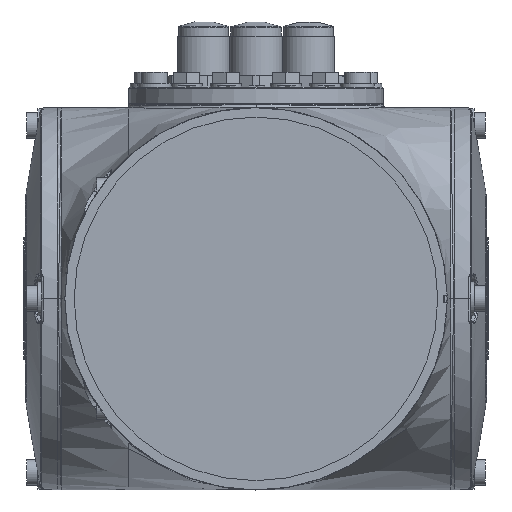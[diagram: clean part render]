
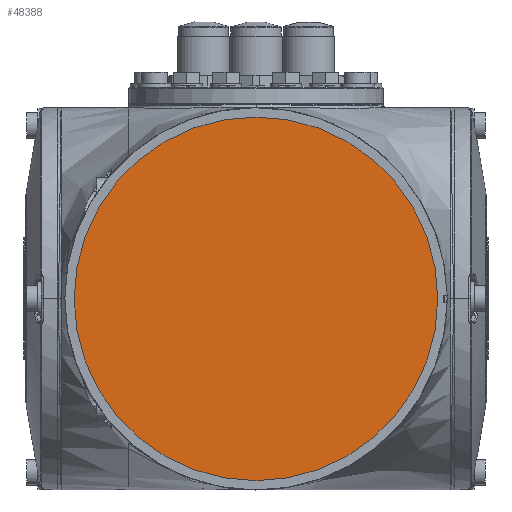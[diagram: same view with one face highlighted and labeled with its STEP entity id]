
A CAD part, left-side view. The second image highlights one B-rep face of the part: STEP entity #48388.
In plain terms, the highlighted planar face has unit normal (-1, 0, 0).
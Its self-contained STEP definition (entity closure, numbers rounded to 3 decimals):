
#2010 = CARTESIAN_POINT ( 'NONE',  ( 132.5, -48.499, 865. ) ) ;
#2068 = EDGE_LOOP ( 'NONE', ( #67428 ) ) ;
#16025 = CARTESIAN_POINT ( 'NONE',  ( 132.5, 0.001, 913.5 ) ) ;
#18801 = CIRCLE ( 'NONE', #39259, 48.5 ) ;
#22003 = CARTESIAN_POINT ( 'NONE',  ( 132.5, 0.001, 865. ) ) ;
#26437 = VERTEX_POINT ( 'NONE', #2010 ) ;
#27679 = EDGE_CURVE ( 'NONE', #26437, #26437, #18801, .T. ) ;
#29633 = PLANE ( 'NONE',  #79280 ) ;
#39259 = AXIS2_PLACEMENT_3D ( 'NONE', #22003, #40414, #64892 ) ;
#40414 = DIRECTION ( 'NONE',  ( -1., 0., 0. ) ) ;
#40459 = DIRECTION ( 'NONE',  ( 0., -1., 0. ) ) ;
#48388 = ADVANCED_FACE ( 'NONE', ( #70933 ), #29633, .T. ) ;
#54061 = DIRECTION ( 'NONE',  ( -1., 0., 0. ) ) ;
#64892 = DIRECTION ( 'NONE',  ( 0., -1., 0. ) ) ;
#67428 = ORIENTED_EDGE ( 'NONE', *, *, #27679, .T. ) ;
#70933 = FACE_OUTER_BOUND ( 'NONE', #2068, .T. ) ;
#79280 = AXIS2_PLACEMENT_3D ( 'NONE', #16025, #54061, #40459 ) ;
